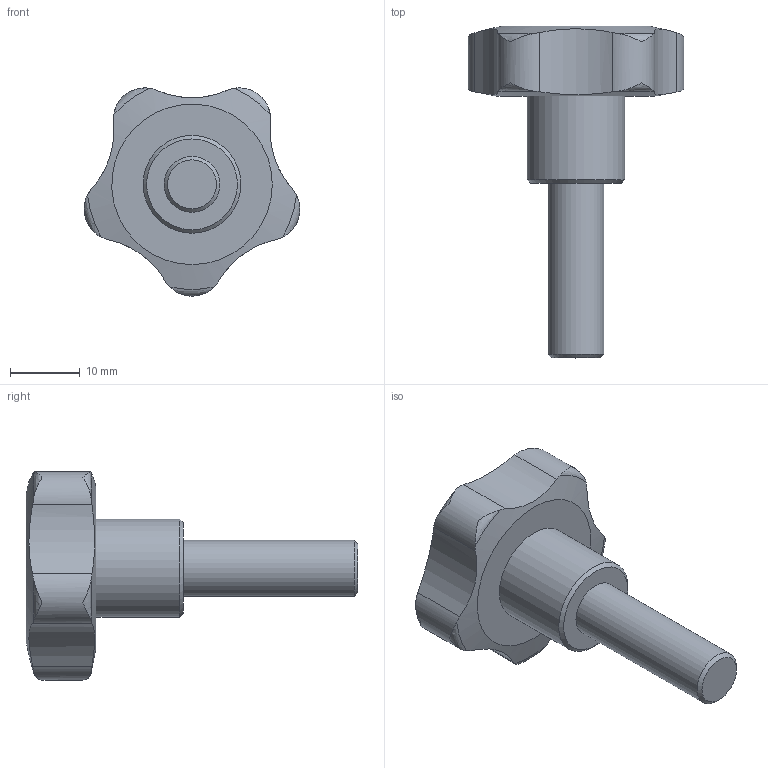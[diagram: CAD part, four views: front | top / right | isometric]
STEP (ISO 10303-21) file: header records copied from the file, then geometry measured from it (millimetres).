
FILE_DESCRIPTION( ( 'STEP AP203' ), '1' );
FILE_NAME( 'C:/Temp/Ganter_Step_05_03_2020/data/2_2/gn_5337_4/gn_5337_4_s/Star knob GN 5337.4-32-M8-25.stp', '2020-03-05T12:09:44', ( 'License CC BY-ND 4.0' ), ( 'CADENAS' ), ' ', 'PARTsolutions', ' ' );
FILE_SCHEMA( ( 'CONFIG_CONTROL_DESIGN' ) );
Length unit declared in the file: millimetre
Products named in the file (1): _Star knob GN 5337.4-32-M8-25
Bounding box: 30.87 x 47.5 x 29.8 mm (x, y, z)
Volume: 9071.3 mm3; surface area: 3264.2 mm2
Topology: 1 solids, 2 shells, 34 faces, 90 edges, 61 vertices
Faces by surface type: cylinder 14, torus 10, plane 5, cone 3, bspline 1, sphere 1
Full cylindrical faces by diameter (mm): 7 x1, 7.2 x1, 8 x1, 14 x1
Entity records: 1439 total; most frequent: CARTESIAN_POINT 674, ORIENTED_EDGE 154, DIRECTION 122, EDGE_CURVE 77, VERTEX_POINT 58, AXIS2_PLACEMENT_3D 56, EDGE_LOOP 46, B_SPLINE_CURVE_WITH_KNOTS 45
